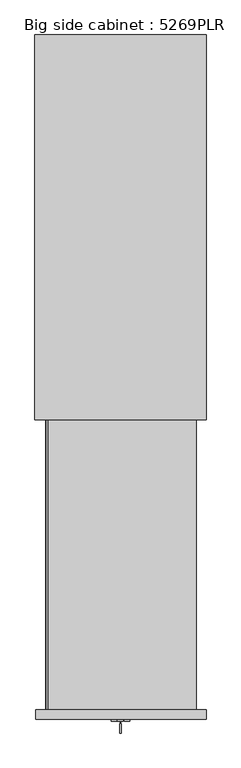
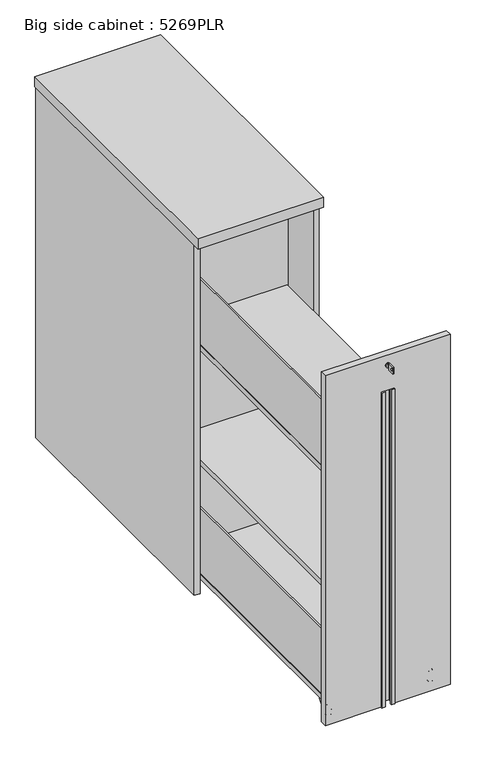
"""IFC4 building model written with IfcOpenShell, lengths in millimetres: furniture geometry, Big side cabinet : 5269PLR."""

from ifc_helpers import new_model, si_unit, point, frame, frame_2d, origin, origin_with_axes, place, context, project, spatial, polyline, circle_curve, ellipse_curve, trimmed, segment, composite_curve, outline, extrude, source, transform, mapped, element, save
from ifc_brep_helpers import plane_surface, cylinder_surface, revolved_surface, advanced_brep


def big_side_cabinet_5269plr_a5a5dc66(model_context):
    return source(origin(), model_context, "Body", "SolidModel", [
        extrude(outline(polyline([(1.5783188, 20.1617145), (1.5783188, 10.1617145), (-8.4216812, 10.1617145), (-8.4216812, 20.1617145), (1.5783188, 20.1617145)])), origin_with_axes(), (0.0, 0.0, 1.0), 10.0),
        extrude(outline(polyline([(180.5000002, 898.0), (198.5, 898.0), (198.5, 22.9999769), (180.5000002, 22.9999769), (180.5000002, 898.0)])), frame((0.0, 0.0, 5.0), z_axis=(0.0, 0.0, 1.0), x_axis=(1.0, 0.0, 0.0)), (0.0, 0.0, 1.0), 1180.0),
        extrude(outline(polyline([(-180.5000002, 878.4999997), (-180.5000002, 890.9999997), (180.5000002, 890.9999997), (180.5000002, 878.4999997), (-180.5000002, 878.4999997)])), frame((0.0, 0.0, 5.0), z_axis=(0.0, 0.0, 1.0), x_axis=(1.0, 0.0, 0.0)), (0.0, 0.0, 1.0), 1180.0),
        extrude(outline(polyline([(-180.5000002, 898.0), (-180.5000002, 22.9999769), (-198.5, 22.9999769), (-198.5, 898.0), (-180.5000002, 898.0)])), frame((0.0, 0.0, 5.0), z_axis=(0.0, 0.0, 1.0), x_axis=(1.0, 0.0, 0.0)), (0.0, 0.0, 1.0), 1180.0),
        extrude(outline(polyline([(180.5000002, 70.0000151), (-180.5000002, 70.0000151), (-180.5000002, 838.5000021), (180.5000002, 838.5000021), (180.5000002, 70.0000151)])), frame((0.0, 0.0, 20.0583505), z_axis=(0.0, 0.0, 1.0), x_axis=(1.0, 0.0, 0.0)), (0.0, 0.0, 1.0), 17.9999982),
        extrude(outline(polyline([(200.0, 0.0), (-200.0, 0.0), (-200.0, 900.0), (200.0, 900.0), (200.0, 0.0)])), frame((0.0, 0.0, 1185.0), z_axis=(0.0, 0.0, 1.0), x_axis=(1.0, 0.0, 0.0)), (0.0, 0.0, 1.0), 35.0),
        extrude(outline(composite_curve([segment(trimmed(circle_curve(frame_2d((-160.5000002, 806.0000021)), 20.0), [point((-180.5000002, 806.0000021))], [point((-140.5000002, 806.0000021))], False, "CARTESIAN"), True, "CONTINUOUS"), segment(trimmed(circle_curve(frame_2d((-160.5000002, 806.0000021)), 20.0), [point((-140.5000002, 806.0000021))], [point((-180.5000002, 806.0000021))], False, "CARTESIAN"), True, "CONTINUOUS")], self_intersect=False)), origin_with_axes(), (0.0, 0.0, 1.0), 19.0539492),
        extrude(outline(composite_curve([segment(trimmed(circle_curve(frame_2d((-160.5000002, 98.9999918)), 20.0), [point((-180.5000002, 98.9999918))], [point((-140.5000002, 98.9999918))], False, "CARTESIAN"), True, "CONTINUOUS"), segment(trimmed(circle_curve(frame_2d((-160.5000002, 98.9999918)), 20.0), [point((-140.5000002, 98.9999918))], [point((-180.5000002, 98.9999918))], False, "CARTESIAN"), True, "CONTINUOUS")], self_intersect=False)), origin_with_axes(), (0.0, 0.0, 1.0), 19.0539492),
        extrude(outline(composite_curve([segment(trimmed(circle_curve(frame_2d((160.5000002, 806.0000021)), 20.0), [point((140.5000002, 806.0000021))], [point((180.5000002, 806.0000021))], False, "CARTESIAN"), True, "CONTINUOUS"), segment(trimmed(circle_curve(frame_2d((160.5000002, 806.0000021)), 20.0), [point((180.5000002, 806.0000021))], [point((140.5000002, 806.0000021))], False, "CARTESIAN"), True, "CONTINUOUS")], self_intersect=False)), origin_with_axes(), (0.0, 0.0, 1.0), 19.0539492),
        extrude(outline(composite_curve([segment(trimmed(circle_curve(frame_2d((160.5000002, 98.9999918)), 20.0), [point((140.5000002, 98.9999918))], [point((180.5000002, 98.9999918))], False, "CARTESIAN"), True, "CONTINUOUS"), segment(trimmed(circle_curve(frame_2d((160.5000002, 98.9999918)), 20.0), [point((180.5000002, 98.9999918))], [point((140.5000002, 98.9999918))], False, "CARTESIAN"), True, "CONTINUOUS")], self_intersect=False)), origin_with_axes(), (0.0, 0.0, 1.0), 19.0539492),
        advanced_brep(
        [(155.997354, -648.0000393, 10.5), (158.25, -648.0000393, 12.752646), (158.25, -648.0000393, 29.247354), (155.997354, -648.0000393, 31.5), (155.997354, -648.0000393, 3.0456405), (155.997354, -648.0000393, 38.9543595), (159.0429945, -648.0000393, 0.0), (159.0429945, -648.0000393, 42.0), (162.5, -648.0000393, 0.0), (162.5, -648.0000393, 42.0), (162.5, -648.0000393, 16.75), (162.5, -648.0000393, 25.25), (158.25, -648.0000393, 16.75), (158.25, -648.0000393, 25.25)],
        [
            (0, 1),
            (1, 2, circle_curve(frame((158.25, -648.0000393, 21.0), z_axis=(1.0, 0.0, 0.0), x_axis=(0.0, 0.0, 1.0)), 8.247354)),
            (2, 3),
            (3, 0, circle_curve(frame((155.997354, -648.0000393, 21.0), z_axis=(-1.0, 0.0, 0.0), x_axis=(0.0, 0.0, 1.0)), 10.5)),
            (2, 1, circle_curve(frame((158.25, -648.0000393, 21.0), z_axis=(1.0, 0.0, 0.0), x_axis=(0.0, 0.0, 1.0)), 8.247354)),
            (0, 3, circle_curve(frame((155.997354, -648.0000393, 21.0), z_axis=(-1.0, 0.0, 0.0), x_axis=(0.0, 0.0, 1.0)), 10.5)),
            (4, 0),
            (3, 5),
            (5, 4, circle_curve(frame((155.997354, -648.0000393, 21.0), z_axis=(-1.0, 0.0, 0.0), x_axis=(0.0, 0.0, 1.0)), 17.9543595)),
            (4, 5, circle_curve(frame((155.997354, -648.0000393, 21.0), z_axis=(-1.0, 0.0, 0.0), x_axis=(0.0, 0.0, 1.0)), 17.9543595)),
            (6, 4, circle_curve(frame((159.0429945, -648.0000393, 3.0456405), z_axis=(0.0, 1.0, 0.0), x_axis=(-1.0, 0.0, 0.0)), 3.0456405)),
            (5, 7, circle_curve(frame((159.0429945, -648.0000393, 38.9543595), z_axis=(0.0, 1.0, 0.0), x_axis=(-1.0, 0.0, 0.0)), 3.0456405)),
            (7, 6, circle_curve(frame((159.0429945, -648.0000393, 21.0), z_axis=(-1.0, 0.0, 0.0), x_axis=(0.0, 0.0, 1.0)), 21.0)),
            (6, 7, circle_curve(frame((159.0429945, -648.0000393, 21.0), z_axis=(-1.0, 0.0, 0.0), x_axis=(0.0, 0.0, 1.0)), 21.0)),
            (8, 6),
            (7, 9),
            (9, 8, circle_curve(frame((162.5, -648.0000393, 21.0), z_axis=(-1.0, 0.0, 0.0), x_axis=(0.0, 0.0, 1.0)), 21.0)),
            (8, 9, circle_curve(frame((162.5, -648.0000393, 21.0), z_axis=(-1.0, 0.0, 0.0), x_axis=(0.0, 0.0, 1.0)), 21.0)),
            (10, 8),
            (9, 11),
            (11, 10, circle_curve(frame((162.5, -648.0000393, 21.0), z_axis=(-1.0, 0.0, 0.0), x_axis=(0.0, 0.0, 1.0)), 4.25)),
            (10, 11, circle_curve(frame((162.5, -648.0000393, 21.0), z_axis=(-1.0, 0.0, 0.0), x_axis=(0.0, 0.0, 1.0)), 4.25)),
            (12, 10),
            (11, 13),
            (13, 12, circle_curve(frame((158.25, -648.0000393, 21.0), z_axis=(-1.0, 0.0, 0.0), x_axis=(0.0, 0.0, 1.0)), 4.25)),
            (12, 13, circle_curve(frame((158.25, -648.0000393, 21.0), z_axis=(-1.0, 0.0, 0.0), x_axis=(0.0, 0.0, 1.0)), 4.25)),
            (1, 12),
            (13, 2),
        ],
        [
            revolved_surface(polyline([(158.25, -648.0000393, 29.247354), (155.997354, -648.0000393, 31.5)]), (135.5019942, -648.0000393, 21.0), (1.0, 0.0, 0.0)),
            plane_surface(frame((155.997354, -648.0000393, 21.0), z_axis=(-1.0, 0.0, 0.0), x_axis=(0.0, 0.0, 1.0))),
            revolved_surface(trimmed(ellipse_curve(frame((159.0429945, -648.0000393, 38.9543595), z_axis=(0.0, 1.0, 0.0), x_axis=(-1.0, 0.0, 0.0)), 3.0456405, 3.0456405), [point((155.997354, -648.0000393, 38.9543595))], [point((159.0429945, -648.0000393, 42.0))], True, "CARTESIAN"), (135.5019942, -648.0000393, 21.0), (1.0, 0.0, 0.0)),
            cylinder_surface(frame((135.5019942, -648.0000393, 21.0), z_axis=(1.0, 0.0, 0.0), x_axis=(0.0, 0.0, 1.0)), 21.0),
            plane_surface(frame((162.5, -648.0000393, 21.0), z_axis=(1.0, 0.0, 0.0), x_axis=(0.0, 0.0, 1.0))),
            revolved_surface(polyline([(162.5, -648.0000393, 25.25), (158.25, -648.0000393, 25.25)]), (135.5019942, -648.0000393, 21.0), (1.0, 0.0, 0.0)),
            plane_surface(frame((158.25, -648.0000393, 21.0), z_axis=(-1.0, 0.0, 0.0), x_axis=(0.0, 0.0, 1.0))),
        ],
        [
            (0, [[1, 2, 3, 4]]),
            (0, [[-3, 5, -1, 6]]),
            (1, [[7, -4, 8, 9]]),
            (1, [[-8, -6, -7, 10]]),
            (2, [[11, -9, 12, 13]]),
            (2, [[-12, -10, -11, 14]]),
            (3, [[15, -13, 16, 17]]),
            (3, [[-16, -14, -15, 18]]),
            (4, [[19, -17, 20, 21]]),
            (4, [[-20, -18, -19, 22]]),
            (5, [[23, -21, 24, 25]]),
            (5, [[-24, -22, -23, 26]]),
            (6, [[27, -25, 28, -2]]),
            (6, [[-28, -26, -27, -5]]),
        ],
    ),
        advanced_brep(
        [(174.351441, -648.0000393, 25.0), (174.351441, -648.0000393, 21.0), (174.351441, -648.0000393, 17.0), (169.8769483, -648.0000393, 17.0), (169.8769483, -648.0000393, 25.0)],
        [
            (0, 1),
            (1, 2),
            (2, 0, circle_curve(frame((174.351441, -648.0000393, 21.0), z_axis=(1.0, 0.0, 0.0), x_axis=(0.0, 0.0, -1.0)), 4.0)),
            (0, 2, circle_curve(frame((174.351441, -648.0000393, 21.0), z_axis=(1.0, 0.0, 0.0), x_axis=(0.0, 0.0, -1.0)), 4.0)),
            (2, 3),
            (3, 4, circle_curve(frame((169.8769483, -648.0000393, 21.0), z_axis=(1.0, 0.0, 0.0), x_axis=(0.0, 0.0, -1.0)), 4.0)),
            (4, 0),
            (4, 3, circle_curve(frame((169.8769483, -648.0000393, 21.0), z_axis=(1.0, 0.0, 0.0), x_axis=(0.0, 0.0, -1.0)), 4.0)),
        ],
        [
            plane_surface(frame((174.351441, -648.0000393, 21.0), z_axis=(1.0, 0.0, 0.0), x_axis=(0.0, 0.0, -1.0))),
            cylinder_surface(frame((142.5, -648.0000393, 21.0), z_axis=(-1.0, 0.0, 0.0), x_axis=(0.0, 0.0, -1.0)), 4.0),
            plane_surface(frame((169.8769483, -672.0000393, 46.0), z_axis=(-1.0, 0.0, 0.0), x_axis=(0.0, 1.0, 0.0))),
        ],
        [
            (0, [[1, 2, 3]]),
            (0, [[-1, 4, -2]]),
            (1, [[5, 6, 7, -3]]),
            (1, [[-7, 8, -5, -4]]),
            (2, [[-8, -6]]),
        ],
    ),
        advanced_brep(
        [(150.5708052, -648.0000393, 25.0), (155.0, -648.0000393, 25.0), (155.0, -648.0000393, 17.0), (150.5708052, -648.0000393, 17.0), (150.5708052, -648.0000393, 21.0)],
        [
            (0, 1),
            (1, 2, circle_curve(frame((155.0, -648.0000393, 21.0), z_axis=(-1.0, 0.0, 0.0), x_axis=(0.0, 0.0, -1.0)), 4.0)),
            (2, 3),
            (3, 0, circle_curve(frame((150.5708052, -648.0000393, 21.0), z_axis=(1.0, 0.0, 0.0), x_axis=(0.0, 0.0, -1.0)), 4.0)),
            (2, 1, circle_curve(frame((155.0, -648.0000393, 21.0), z_axis=(-1.0, 0.0, 0.0), x_axis=(0.0, 0.0, -1.0)), 4.0)),
            (0, 3, circle_curve(frame((150.5708052, -648.0000393, 21.0), z_axis=(1.0, 0.0, 0.0), x_axis=(0.0, 0.0, -1.0)), 4.0)),
            (3, 4),
            (4, 0),
        ],
        [
            cylinder_surface(frame((142.5, -648.0000393, 21.0), z_axis=(-1.0, 0.0, 0.0), x_axis=(0.0, 0.0, -1.0)), 4.0),
            plane_surface(frame((150.5708052, -648.0000393, 21.0), z_axis=(-1.0, 0.0, 0.0), x_axis=(0.0, 0.0, -1.0))),
            plane_surface(frame((155.0, -672.0000393, 0.0), z_axis=(1.0, 0.0, 0.0), x_axis=(0.0, 1.0, 0.0))),
        ],
        [
            (0, [[1, 2, 3, 4]]),
            (0, [[-3, 5, -1, 6]]),
            (1, [[7, 8, -4]]),
            (1, [[-8, -7, -6]]),
            (2, [[-5, -2]]),
        ],
    ),
        advanced_brep(
        [(166.75, -648.0000393, 12.752646), (169.002646, -648.0000393, 10.5), (169.002646, -648.0000393, 31.5), (166.75, -648.0000393, 29.247354), (169.002646, -648.0000393, 3.0456405), (169.002646, -648.0000393, 38.9543595), (165.9570055, -648.0000393, 0.0), (165.9570055, -648.0000393, 42.0), (162.5, -648.0000393, 0.0), (162.5, -648.0000393, 42.0), (162.5, -648.0000393, 21.0), (166.75, -648.0000393, 21.0)],
        [
            (0, 1),
            (1, 2, circle_curve(frame((169.002646, -648.0000393, 21.0), z_axis=(1.0, 0.0, 0.0), x_axis=(0.0, 0.0, 1.0)), 10.5)),
            (2, 3),
            (3, 0, circle_curve(frame((166.75, -648.0000393, 21.0), z_axis=(-1.0, 0.0, 0.0), x_axis=(0.0, 0.0, 1.0)), 8.247354)),
            (2, 1, circle_curve(frame((169.002646, -648.0000393, 21.0), z_axis=(1.0, 0.0, 0.0), x_axis=(0.0, 0.0, 1.0)), 10.5)),
            (0, 3, circle_curve(frame((166.75, -648.0000393, 21.0), z_axis=(-1.0, 0.0, 0.0), x_axis=(0.0, 0.0, 1.0)), 8.247354)),
            (1, 4),
            (4, 5, circle_curve(frame((169.002646, -648.0000393, 21.0), z_axis=(1.0, 0.0, 0.0), x_axis=(0.0, 0.0, 1.0)), 17.9543595)),
            (5, 2),
            (5, 4, circle_curve(frame((169.002646, -648.0000393, 21.0), z_axis=(1.0, 0.0, 0.0), x_axis=(0.0, 0.0, 1.0)), 17.9543595)),
            (4, 6, circle_curve(frame((165.9570055, -648.0000393, 3.0456405), z_axis=(0.0, 1.0, 0.0), x_axis=(1.0, 0.0, 0.0)), 3.0456405)),
            (6, 7, circle_curve(frame((165.9570055, -648.0000393, 21.0), z_axis=(1.0, 0.0, 0.0), x_axis=(0.0, 0.0, 1.0)), 21.0)),
            (7, 5, circle_curve(frame((165.9570055, -648.0000393, 38.9543595), z_axis=(0.0, 1.0, 0.0), x_axis=(1.0, 0.0, 0.0)), 3.0456405)),
            (7, 6, circle_curve(frame((165.9570055, -648.0000393, 21.0), z_axis=(1.0, 0.0, 0.0), x_axis=(0.0, 0.0, 1.0)), 21.0)),
            (6, 8),
            (8, 9, circle_curve(frame((162.5, -648.0000393, 21.0), z_axis=(1.0, 0.0, 0.0), x_axis=(0.0, 0.0, 1.0)), 21.0)),
            (9, 7),
            (9, 8, circle_curve(frame((162.5, -648.0000393, 21.0), z_axis=(1.0, 0.0, 0.0), x_axis=(0.0, 0.0, 1.0)), 21.0)),
            (8, 10),
            (10, 9),
            (11, 0),
            (3, 11),
        ],
        [
            revolved_surface(polyline([(169.002646, -648.0000393, 31.5), (166.75, -648.0000393, 29.247354)]), (189.4980058, -648.0000393, 21.0), (1.0, 0.0, 0.0)),
            plane_surface(frame((169.002646, -648.0000393, 21.0), z_axis=(1.0, 0.0, 0.0), x_axis=(0.0, 0.0, 1.0))),
            revolved_surface(trimmed(ellipse_curve(frame((165.9570055, -648.0000393, 38.9543595), z_axis=(0.0, 1.0, 0.0), x_axis=(1.0, 0.0, 0.0)), 3.0456405, 3.0456405), [point((165.9570055, -648.0000393, 42.0))], [point((169.002646, -648.0000393, 38.9543595))], True, "CARTESIAN"), (189.4980058, -648.0000393, 21.0), (1.0, 0.0, 0.0)),
            cylinder_surface(frame((189.4980058, -648.0000393, 21.0), z_axis=(1.0, 0.0, 0.0), x_axis=(0.0, 0.0, 1.0)), 21.0),
            plane_surface(frame((162.5, -648.0000393, 21.0), z_axis=(-1.0, 0.0, 0.0), x_axis=(0.0, 0.0, 1.0))),
            plane_surface(frame((166.75, -648.0000393, 21.0), z_axis=(1.0, 0.0, 0.0), x_axis=(0.0, 0.0, 1.0))),
        ],
        [
            (0, [[1, 2, 3, 4]]),
            (0, [[-3, 5, -1, 6]]),
            (1, [[7, 8, 9, -2]]),
            (1, [[-9, 10, -7, -5]]),
            (2, [[11, 12, 13, -8]]),
            (2, [[-13, 14, -11, -10]]),
            (3, [[15, 16, 17, -12]]),
            (3, [[-17, 18, -15, -14]]),
            (4, [[19, 20, -16]]),
            (4, [[-20, -19, -18]]),
            (5, [[21, -4, 22]]),
            (5, [[-22, -6, -21]]),
        ],
    ),
        advanced_brep(
        [(152.5, -624.0000393, 48.0), (152.5, -624.0000393, 42.0), (152.5, -640.0000393, 21.0), (152.5, -656.0000393, 21.0), (152.5, -672.0000393, 42.0), (152.5, -672.0000393, 48.0), (172.5, -624.0000393, 48.0), (172.5, -672.0000393, 48.0), (172.5, -672.0000393, 42.0), (172.5, -656.0000393, 21.0), (172.5, -640.0000393, 21.0), (172.5, -624.0000393, 42.0), (169.8769483, -656.0000393, 21.0), (169.8769483, -640.0000393, 21.0), (155.0, -640.0000393, 21.0), (155.0, -656.0000393, 21.0), (155.0, -672.0000393, 42.0), (155.0, -672.0000393, 46.0), (169.8769483, -672.0000393, 46.0), (169.8769483, -672.0000393, 42.0), (169.8769483, -624.0000393, 42.0), (169.8769483, -624.0000393, 46.0), (155.0, -624.0000393, 46.0), (155.0, -624.0000393, 42.0)],
        [
            (0, 1),
            (1, 2),
            (2, 3, circle_curve(frame((152.5, -648.0000393, 21.0), z_axis=(-1.0, 0.0, 0.0), x_axis=(0.0, -1.0, 0.0)), 8.0)),
            (3, 4),
            (4, 5),
            (5, 0),
            (6, 7),
            (7, 8),
            (8, 9),
            (9, 10, circle_curve(frame((172.5, -648.0000393, 21.0), z_axis=(1.0, 0.0, 0.0), x_axis=(0.0, -1.0, 0.0)), 8.0)),
            (10, 11),
            (11, 6),
            (5, 7),
            (6, 0),
            (9, 12),
            (12, 13, circle_curve(frame((169.8769483, -648.0000393, 21.0), z_axis=(1.0, 0.0, 0.0), x_axis=(0.0, -1.0, 0.0)), 8.0)),
            (13, 10),
            (2, 14),
            (14, 15, circle_curve(frame((155.0, -648.0000393, 21.0), z_axis=(-1.0, 0.0, 0.0), x_axis=(0.0, -1.0, 0.0)), 8.0)),
            (15, 3),
            (4, 16),
            (16, 17),
            (17, 18),
            (18, 19),
            (19, 8),
            (11, 20),
            (20, 21),
            (21, 22),
            (22, 23),
            (23, 1),
            (17, 22),
            (21, 18),
            (16, 15),
            (14, 23),
            (20, 13),
            (12, 19),
        ],
        [
            plane_surface(frame((152.5, -672.0000393, 48.0), z_axis=(-1.0, 0.0, 0.0), x_axis=(0.0, -1.0, 0.0))),
            plane_surface(frame((172.5, -672.0000393, 48.0), z_axis=(1.0, 0.0, 0.0), x_axis=(0.0, 1.0, 0.0))),
            plane_surface(frame((152.5, -624.0000393, 48.0), z_axis=(0.0, 0.0, 1.0), x_axis=(1.0, 0.0, 0.0))),
            cylinder_surface(frame((172.5, -648.0000393, 21.0), z_axis=(-1.0, 0.0, 0.0), x_axis=(0.0, -1.0, 0.0)), 8.0),
            plane_surface(frame((152.5, -672.0000393, 48.0), z_axis=(0.0, -1.0, 0.0), x_axis=(1.0, 0.0, 0.0))),
            plane_surface(frame((152.5, -624.0000393, 42.0), z_axis=(0.0, 1.0, 0.0), x_axis=(1.0, 0.0, 0.0))),
            plane_surface(frame((155.0, -672.0000393, 46.0), z_axis=(0.0, 0.0, -1.0), x_axis=(0.0, 1.0, 0.0))),
            plane_surface(frame((155.0, -672.0000393, 0.0), z_axis=(1.0, 0.0, 0.0), x_axis=(0.0, 1.0, 0.0))),
            plane_surface(frame((169.8769483, -672.0000393, 46.0), z_axis=(-1.0, 0.0, 0.0), x_axis=(0.0, 1.0, 0.0))),
            plane_surface(frame((152.5, -672.0000393, 42.0), z_axis=(0.0, -0.7954317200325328, -0.6060432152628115), x_axis=(1.0, 0.0, 0.0))),
            plane_surface(frame((152.5, -640.0000393, 21.0), z_axis=(0.0, 0.7954317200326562, -0.6060432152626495), x_axis=(1.0, 0.0, 0.0))),
        ],
        [
            (0, [[1, 2, 3, 4, 5, 6]]),
            (1, [[7, 8, 9, 10, 11, 12]]),
            (2, [[13, -7, 14, -6]]),
            (3, [[15, 16, 17, -10]]),
            (3, [[18, 19, 20, -3]]),
            (4, [[21, 22, 23, 24, 25, -8, -13, -5]]),
            (5, [[-14, -12, 26, 27, 28, 29, 30, -1]]),
            (6, [[-23, 31, -28, 32]]),
            (7, [[-22, 33, -19, 34, -29, -31]]),
            (8, [[-27, 35, -16, 36, -24, -32]]),
            (9, [[-20, -33, -21, -4]]),
            (9, [[-25, -36, -15, -9]]),
            (10, [[-30, -34, -18, -2]]),
            (10, [[-17, -35, -26, -11]]),
        ],
    ),
        extrude(outline(polyline([(-732.0000046, 1139.014113), (-732.0000046, 1161.0), (-710.0000046, 1161.0), (-710.0000046, 1139.014113), (-732.0000046, 1139.014113)]), holes=[composite_curve([segment(trimmed(circle_curve(frame_2d((-725.7500046, 1150.0070565)), 3.2230706), [point((-725.7500046, 1153.2301271))], [point((-725.7500046, 1146.7839859))], True, "CARTESIAN"), True, "CONTINUOUS"), segment(trimmed(circle_curve(frame_2d((-725.7500046, 1150.0070565)), 3.2230706), [point((-725.7500046, 1146.7839859))], [point((-725.7500046, 1153.2301271))], True, "CARTESIAN"), True, "CONTINUOUS")], self_intersect=False)]), frame((-2.0, 0.0, 0.0), z_axis=(1.0, 0.0, 0.0), x_axis=(0.0, 1.0, 0.0)), (0.0, 0.0, 1.0), 4.0416064),
        extrude(outline(polyline([(1.0416064, -710.0000046), (-1.0, -710.0000046), (-1.0, -704.0000046), (1.0416064, -704.0000046), (1.0416064, -710.0000046)])), frame((0.0, 0.0, 1146.014113), z_axis=(0.0, 0.0, 1.0), x_axis=(1.0, 0.0, 0.0)), (0.0, 0.0, 1.0), 7.985887),
        extrude(outline(composite_curve([segment(trimmed(circle_curve(frame_2d((1150.0, 0.0)), 7.0), [point((1150.0, -7.0))], [point((1150.0, 7.0))], False, "CARTESIAN"), True, "CONTINUOUS"), segment(trimmed(circle_curve(frame_2d((1150.0, 0.0)), 7.0), [point((1150.0, 7.0))], [point((1150.0, -7.0))], False, "CARTESIAN"), True, "CONTINUOUS")], self_intersect=False)), frame((0.0, -704.0000046, 0.0), z_axis=(0.0, 1.0, 0.0), x_axis=(0.0, 0.0, 1.0)), (0.0, 0.0, 1.0), 4.0),
        extrude(outline(polyline([(1182.0, 200.0000015), (1182.0, -198.5000015), (5.0, -198.5000015), (5.0, -17.7500067), (1065.0, -17.7500067), (1065.0, 17.7500067), (5.0, 17.7500067), (5.0, 200.0000015), (1182.0, 200.0000015)])), frame((0.0, -700.0000046, 0.0), z_axis=(0.0, 1.0, 0.0), x_axis=(0.0, 0.0, 1.0)), (0.0, 0.0, 1.0), 21.9999653),
        extrude(outline(polyline([(-21.2499929, -704.2058707), (-21.2499929, -700.0000046), (-17.7500067, -700.0000046), (-17.7500067, -678.0000393), (17.7500067, -678.0000393), (17.7500067, -700.0000046), (21.2499929, -700.0000046), (21.2499929, -704.2058707), (9.2499986, -704.2058707), (9.2499986, -698.4780496), (15.9519183, -695.3528931), (15.9519183, -680.3528931), (-15.9519183, -680.3528931), (-15.9519183, -695.3528931), (-9.2499986, -698.4780496), (-9.2499986, -704.2058707), (-21.2499929, -704.2058707)])), frame((0.0, 0.0, 5.0), z_axis=(0.0, 0.0, 1.0), x_axis=(1.0, 0.0, 0.0)), (0.0, 0.0, 1.0), 1060.0),
        extrude(outline(polyline([(-169.8004833, -678.0000046), (-173.7499883, -678.0000046), (-173.7499883, 160.5000143), (-169.8004833, 160.5000143), (-169.8004833, -678.0000046)])), frame((0.0, 0.0, 836.0), z_axis=(0.0, 0.0, 1.0), x_axis=(1.0, 0.0, 0.0)), (0.0, 0.0, 1.0), 220.0),
        extrude(outline(polyline([(169.8004833, -678.0000046), (169.8004833, 160.5000143), (173.7499883, 160.5000143), (173.7499883, -678.0000046), (169.8004833, -678.0000046)])), frame((0.0, 0.0, 451.0), z_axis=(0.0, 0.0, 1.0), x_axis=(1.0, 0.0, 0.0)), (0.0, 0.0, 1.0), 220.0),
        extrude(outline(polyline([(-169.8004833, -678.0000046), (-173.7499883, -678.0000046), (-173.7499883, 160.5000143), (-169.8004833, 160.5000143), (-169.8004833, -678.0000046)])), frame((0.0, 0.0, 66.0), z_axis=(0.0, 0.0, 1.0), x_axis=(1.0, 0.0, 0.0)), (0.0, 0.0, 1.0), 220.0),
        advanced_brep(
        [(-155.997354, -648.0000393, 10.5), (-155.997354, -648.0000393, 31.5), (-158.25, -648.0000393, 29.247354), (-158.25, -648.0000393, 12.752646), (-155.997354, -648.0000393, 3.0456405), (-155.997354, -648.0000393, 38.9543595), (-159.0429945, -648.0000393, 0.0), (-159.0429945, -648.0000393, 42.0), (-162.5, -648.0000393, 0.0), (-162.5, -648.0000393, 42.0), (-162.5, -648.0000393, 16.75), (-162.5, -648.0000393, 25.25), (-158.25, -648.0000393, 16.75), (-158.25, -648.0000393, 25.25)],
        [
            (0, 1, circle_curve(frame((-155.997354, -648.0000393, 21.0), z_axis=(1.0, 0.0, 0.0), x_axis=(0.0, 0.0, 1.0)), 10.5)),
            (1, 2),
            (2, 3, circle_curve(frame((-158.25, -648.0000393, 21.0), z_axis=(-1.0, 0.0, 0.0), x_axis=(0.0, 0.0, 1.0)), 8.247354)),
            (3, 0),
            (1, 0, circle_curve(frame((-155.997354, -648.0000393, 21.0), z_axis=(1.0, 0.0, 0.0), x_axis=(0.0, 0.0, 1.0)), 10.5)),
            (3, 2, circle_curve(frame((-158.25, -648.0000393, 21.0), z_axis=(-1.0, 0.0, 0.0), x_axis=(0.0, 0.0, 1.0)), 8.247354)),
            (4, 5, circle_curve(frame((-155.997354, -648.0000393, 21.0), z_axis=(1.0, 0.0, 0.0), x_axis=(0.0, 0.0, 1.0)), 17.9543595)),
            (5, 1),
            (0, 4),
            (5, 4, circle_curve(frame((-155.997354, -648.0000393, 21.0), z_axis=(1.0, 0.0, 0.0), x_axis=(0.0, 0.0, 1.0)), 17.9543595)),
            (6, 7, circle_curve(frame((-159.0429945, -648.0000393, 21.0), z_axis=(1.0, 0.0, 0.0), x_axis=(0.0, 0.0, 1.0)), 21.0)),
            (7, 5, circle_curve(frame((-159.0429945, -648.0000393, 38.9543595), z_axis=(0.0, 1.0, 0.0), x_axis=(1.0, 0.0, 0.0)), 3.0456405)),
            (4, 6, circle_curve(frame((-159.0429945, -648.0000393, 3.0456405), z_axis=(0.0, 1.0, 0.0), x_axis=(1.0, 0.0, 0.0)), 3.0456405)),
            (7, 6, circle_curve(frame((-159.0429945, -648.0000393, 21.0), z_axis=(1.0, 0.0, 0.0), x_axis=(0.0, 0.0, 1.0)), 21.0)),
            (8, 9, circle_curve(frame((-162.5, -648.0000393, 21.0), z_axis=(1.0, 0.0, 0.0), x_axis=(0.0, 0.0, 1.0)), 21.0)),
            (9, 7),
            (6, 8),
            (9, 8, circle_curve(frame((-162.5, -648.0000393, 21.0), z_axis=(1.0, 0.0, 0.0), x_axis=(0.0, 0.0, 1.0)), 21.0)),
            (10, 11, circle_curve(frame((-162.5, -648.0000393, 21.0), z_axis=(1.0, 0.0, 0.0), x_axis=(0.0, 0.0, 1.0)), 4.25)),
            (11, 9),
            (8, 10),
            (11, 10, circle_curve(frame((-162.5, -648.0000393, 21.0), z_axis=(1.0, 0.0, 0.0), x_axis=(0.0, 0.0, 1.0)), 4.25)),
            (12, 13, circle_curve(frame((-158.25, -648.0000393, 21.0), z_axis=(1.0, 0.0, 0.0), x_axis=(0.0, 0.0, 1.0)), 4.25)),
            (13, 11),
            (10, 12),
            (13, 12, circle_curve(frame((-158.25, -648.0000393, 21.0), z_axis=(1.0, 0.0, 0.0), x_axis=(0.0, 0.0, 1.0)), 4.25)),
            (2, 13),
            (12, 3),
        ],
        [
            revolved_surface(polyline([(-158.25, -648.0000393, 29.247354), (-155.997354, -648.0000393, 31.5)]), (-135.5019942, -648.0000393, 21.0), (-1.0, 0.0, 0.0)),
            plane_surface(frame((-155.997354, -648.0000393, 21.0), z_axis=(1.0, 0.0, 0.0), x_axis=(0.0, 0.0, 1.0))),
            revolved_surface(trimmed(ellipse_curve(frame((-159.0429945, -648.0000393, 38.9543595), z_axis=(0.0, -1.0, 0.0), x_axis=(1.0, 0.0, 0.0)), 3.0456405, 3.0456405), [point((-155.997354, -648.0000393, 38.9543595))], [point((-159.0429945, -648.0000393, 42.0))], True, "CARTESIAN"), (-135.5019942, -648.0000393, 21.0), (-1.0, 0.0, 0.0)),
            cylinder_surface(frame((-135.5019942, -648.0000393, 21.0), z_axis=(-1.0, 0.0, 0.0), x_axis=(0.0, 0.0, 1.0)), 21.0),
            plane_surface(frame((-162.5, -648.0000393, 21.0), z_axis=(-1.0, 0.0, 0.0), x_axis=(0.0, 0.0, 1.0))),
            revolved_surface(polyline([(-162.5, -648.0000393, 25.25), (-158.25, -648.0000393, 25.25)]), (-135.5019942, -648.0000393, 21.0), (-1.0, 0.0, 0.0)),
            plane_surface(frame((-158.25, -648.0000393, 21.0), z_axis=(1.0, 0.0, 0.0), x_axis=(0.0, 0.0, 1.0))),
        ],
        [
            (0, [[1, 2, 3, 4]]),
            (0, [[5, -4, 6, -2]]),
            (1, [[7, 8, -1, 9]]),
            (1, [[10, -9, -5, -8]]),
            (2, [[11, 12, -7, 13]]),
            (2, [[14, -13, -10, -12]]),
            (3, [[15, 16, -11, 17]]),
            (3, [[18, -17, -14, -16]]),
            (4, [[19, 20, -15, 21]]),
            (4, [[22, -21, -18, -20]]),
            (5, [[23, 24, -19, 25]]),
            (5, [[26, -25, -22, -24]]),
            (6, [[-3, 27, -23, 28]]),
            (6, [[-6, -28, -26, -27]]),
        ],
    ),
        advanced_brep(
        [(-174.351441, -648.0000393, 25.0), (-174.351441, -648.0000393, 17.0), (-174.351441, -648.0000393, 21.0), (-169.8769483, -648.0000393, 25.0), (-169.8769483, -648.0000393, 17.0)],
        [
            (0, 1, circle_curve(frame((-174.351441, -648.0000393, 21.0), z_axis=(-1.0, 0.0, 0.0), x_axis=(0.0, 0.0, -1.0)), 4.0)),
            (1, 2),
            (2, 0),
            (1, 0, circle_curve(frame((-174.351441, -648.0000393, 21.0), z_axis=(-1.0, 0.0, 0.0), x_axis=(0.0, 0.0, -1.0)), 4.0)),
            (0, 3),
            (3, 4, circle_curve(frame((-169.8769483, -648.0000393, 21.0), z_axis=(-1.0, 0.0, 0.0), x_axis=(0.0, 0.0, -1.0)), 4.0)),
            (4, 1),
            (4, 3, circle_curve(frame((-169.8769483, -648.0000393, 21.0), z_axis=(-1.0, 0.0, 0.0), x_axis=(0.0, 0.0, -1.0)), 4.0)),
        ],
        [
            plane_surface(frame((-174.351441, -648.0000393, 21.0), z_axis=(-1.0, 0.0, 0.0), x_axis=(0.0, 0.0, -1.0))),
            cylinder_surface(frame((-142.5, -648.0000393, 21.0), z_axis=(1.0, 0.0, 0.0), x_axis=(0.0, 0.0, -1.0)), 4.0),
            plane_surface(frame((-169.8769483, -672.0000393, 46.0), z_axis=(1.0, 0.0, 0.0), x_axis=(0.0, 1.0, 0.0))),
        ],
        [
            (0, [[1, 2, 3]]),
            (0, [[-2, 4, -3]]),
            (1, [[-1, 5, 6, 7]]),
            (1, [[-4, -7, 8, -5]]),
            (2, [[-6, -8]]),
        ],
    ),
        advanced_brep(
        [(-150.5708052, -648.0000393, 25.0), (-150.5708052, -648.0000393, 17.0), (-155.0, -648.0000393, 17.0), (-155.0, -648.0000393, 25.0), (-150.5708052, -648.0000393, 21.0)],
        [
            (0, 1, circle_curve(frame((-150.5708052, -648.0000393, 21.0), z_axis=(-1.0, 0.0, 0.0), x_axis=(0.0, 0.0, -1.0)), 4.0)),
            (1, 2),
            (2, 3, circle_curve(frame((-155.0, -648.0000393, 21.0), z_axis=(1.0, 0.0, 0.0), x_axis=(0.0, 0.0, -1.0)), 4.0)),
            (3, 0),
            (1, 0, circle_curve(frame((-150.5708052, -648.0000393, 21.0), z_axis=(-1.0, 0.0, 0.0), x_axis=(0.0, 0.0, -1.0)), 4.0)),
            (3, 2, circle_curve(frame((-155.0, -648.0000393, 21.0), z_axis=(1.0, 0.0, 0.0), x_axis=(0.0, 0.0, -1.0)), 4.0)),
            (0, 4),
            (4, 1),
        ],
        [
            cylinder_surface(frame((-142.5, -648.0000393, 21.0), z_axis=(1.0, 0.0, 0.0), x_axis=(0.0, 0.0, -1.0)), 4.0),
            plane_surface(frame((-150.5708052, -648.0000393, 21.0), z_axis=(1.0, 0.0, 0.0), x_axis=(0.0, 0.0, -1.0))),
            plane_surface(frame((-155.0, -672.0000393, 0.0), z_axis=(-1.0, 0.0, 0.0), x_axis=(0.0, 1.0, 0.0))),
        ],
        [
            (0, [[1, 2, 3, 4]]),
            (0, [[5, -4, 6, -2]]),
            (1, [[-1, 7, 8]]),
            (1, [[-5, -8, -7]]),
            (2, [[-3, -6]]),
        ],
    ),
        advanced_brep(
        [(-166.75, -648.0000393, 12.752646), (-166.75, -648.0000393, 29.247354), (-169.002646, -648.0000393, 31.5), (-169.002646, -648.0000393, 10.5), (-169.002646, -648.0000393, 38.9543595), (-169.002646, -648.0000393, 3.0456405), (-165.9570055, -648.0000393, 42.0), (-165.9570055, -648.0000393, 0.0), (-162.5, -648.0000393, 42.0), (-162.5, -648.0000393, 0.0), (-162.5, -648.0000393, 21.0), (-166.75, -648.0000393, 21.0)],
        [
            (0, 1, circle_curve(frame((-166.75, -648.0000393, 21.0), z_axis=(1.0, 0.0, 0.0), x_axis=(0.0, 0.0, 1.0)), 8.247354)),
            (1, 2),
            (2, 3, circle_curve(frame((-169.002646, -648.0000393, 21.0), z_axis=(-1.0, 0.0, 0.0), x_axis=(0.0, 0.0, 1.0)), 10.5)),
            (3, 0),
            (1, 0, circle_curve(frame((-166.75, -648.0000393, 21.0), z_axis=(1.0, 0.0, 0.0), x_axis=(0.0, 0.0, 1.0)), 8.247354)),
            (3, 2, circle_curve(frame((-169.002646, -648.0000393, 21.0), z_axis=(-1.0, 0.0, 0.0), x_axis=(0.0, 0.0, 1.0)), 10.5)),
            (2, 4),
            (4, 5, circle_curve(frame((-169.002646, -648.0000393, 21.0), z_axis=(-1.0, 0.0, 0.0), x_axis=(0.0, 0.0, 1.0)), 17.9543595)),
            (5, 3),
            (5, 4, circle_curve(frame((-169.002646, -648.0000393, 21.0), z_axis=(-1.0, 0.0, 0.0), x_axis=(0.0, 0.0, 1.0)), 17.9543595)),
            (4, 6, circle_curve(frame((-165.9570055, -648.0000393, 38.9543595), z_axis=(0.0, 1.0, 0.0), x_axis=(-1.0, 0.0, 0.0)), 3.0456405)),
            (6, 7, circle_curve(frame((-165.9570055, -648.0000393, 21.0), z_axis=(-1.0, 0.0, 0.0), x_axis=(0.0, 0.0, 1.0)), 21.0)),
            (7, 5, circle_curve(frame((-165.9570055, -648.0000393, 3.0456405), z_axis=(0.0, 1.0, 0.0), x_axis=(-1.0, 0.0, 0.0)), 3.0456405)),
            (7, 6, circle_curve(frame((-165.9570055, -648.0000393, 21.0), z_axis=(-1.0, 0.0, 0.0), x_axis=(0.0, 0.0, 1.0)), 21.0)),
            (6, 8),
            (8, 9, circle_curve(frame((-162.5, -648.0000393, 21.0), z_axis=(-1.0, 0.0, 0.0), x_axis=(0.0, 0.0, 1.0)), 21.0)),
            (9, 7),
            (9, 8, circle_curve(frame((-162.5, -648.0000393, 21.0), z_axis=(-1.0, 0.0, 0.0), x_axis=(0.0, 0.0, 1.0)), 21.0)),
            (8, 10),
            (10, 9),
            (11, 1),
            (0, 11),
        ],
        [
            revolved_surface(polyline([(-169.002646, -648.0000393, 31.5), (-166.75, -648.0000393, 29.247354)]), (-189.4980058, -648.0000393, 21.0), (-1.0, 0.0, 0.0)),
            plane_surface(frame((-169.002646, -648.0000393, 21.0), z_axis=(-1.0, 0.0, 0.0), x_axis=(0.0, 0.0, 1.0))),
            revolved_surface(trimmed(ellipse_curve(frame((-165.9570055, -648.0000393, 38.9543595), z_axis=(0.0, -1.0, 0.0), x_axis=(-1.0, 0.0, 0.0)), 3.0456405, 3.0456405), [point((-165.9570055, -648.0000393, 42.0))], [point((-169.002646, -648.0000393, 38.9543595))], True, "CARTESIAN"), (-189.4980058, -648.0000393, 21.0), (-1.0, 0.0, 0.0)),
            cylinder_surface(frame((-189.4980058, -648.0000393, 21.0), z_axis=(-1.0, 0.0, 0.0), x_axis=(0.0, 0.0, 1.0)), 21.0),
            plane_surface(frame((-162.5, -648.0000393, 21.0), z_axis=(1.0, 0.0, 0.0), x_axis=(0.0, 0.0, 1.0))),
            plane_surface(frame((-166.75, -648.0000393, 21.0), z_axis=(-1.0, 0.0, 0.0), x_axis=(0.0, 0.0, 1.0))),
        ],
        [
            (0, [[1, 2, 3, 4]]),
            (0, [[5, -4, 6, -2]]),
            (1, [[-3, 7, 8, 9]]),
            (1, [[-6, -9, 10, -7]]),
            (2, [[-8, 11, 12, 13]]),
            (2, [[-10, -13, 14, -11]]),
            (3, [[-12, 15, 16, 17]]),
            (3, [[-14, -17, 18, -15]]),
            (4, [[-16, 19, 20]]),
            (4, [[-18, -20, -19]]),
            (5, [[21, -1, 22]]),
            (5, [[-22, -5, -21]]),
        ],
    ),
        advanced_brep(
        [(-152.5, -624.0000393, 48.0), (-152.5, -672.0000393, 48.0), (-152.5, -672.0000393, 42.0), (-152.5, -656.0000393, 21.0), (-152.5, -640.0000393, 21.0), (-152.5, -624.0000393, 42.0), (-172.5, -624.0000393, 48.0), (-172.5, -624.0000393, 42.0), (-172.5, -640.0000393, 21.0), (-172.5, -656.0000393, 21.0), (-172.5, -672.0000393, 42.0), (-172.5, -672.0000393, 48.0), (-155.0, -656.0000393, 21.0), (-155.0, -640.0000393, 21.0), (-169.8769483, -640.0000393, 21.0), (-169.8769483, -656.0000393, 21.0), (-169.8769483, -672.0000393, 42.0), (-169.8769483, -672.0000393, 46.0), (-155.0, -672.0000393, 46.0), (-155.0, -672.0000393, 42.0), (-155.0, -624.0000393, 42.0), (-155.0, -624.0000393, 46.0), (-169.8769483, -624.0000393, 46.0), (-169.8769483, -624.0000393, 42.0)],
        [
            (0, 1),
            (1, 2),
            (2, 3),
            (3, 4, circle_curve(frame((-152.5, -648.0000393, 21.0), z_axis=(1.0, 0.0, 0.0), x_axis=(0.0, -1.0, 0.0)), 8.0)),
            (4, 5),
            (5, 0),
            (6, 7),
            (7, 8),
            (8, 9, circle_curve(frame((-172.5, -648.0000393, 21.0), z_axis=(-1.0, 0.0, 0.0), x_axis=(0.0, -1.0, 0.0)), 8.0)),
            (9, 10),
            (10, 11),
            (11, 6),
            (0, 6),
            (11, 1),
            (3, 12),
            (12, 13, circle_curve(frame((-155.0, -648.0000393, 21.0), z_axis=(1.0, 0.0, 0.0), x_axis=(0.0, -1.0, 0.0)), 8.0)),
            (13, 4),
            (8, 14),
            (14, 15, circle_curve(frame((-169.8769483, -648.0000393, 21.0), z_axis=(-1.0, 0.0, 0.0), x_axis=(0.0, -1.0, 0.0)), 8.0)),
            (15, 9),
            (10, 16),
            (16, 17),
            (17, 18),
            (18, 19),
            (19, 2),
            (5, 20),
            (20, 21),
            (21, 22),
            (22, 23),
            (23, 7),
            (17, 22),
            (21, 18),
            (20, 13),
            (12, 19),
            (16, 15),
            (14, 23),
        ],
        [
            plane_surface(frame((-152.5, -672.0000393, 48.0), z_axis=(1.0, 0.0, 0.0), x_axis=(0.0, -1.0, 0.0))),
            plane_surface(frame((-172.5, -672.0000393, 48.0), z_axis=(-1.0, 0.0, 0.0), x_axis=(0.0, 1.0, 0.0))),
            plane_surface(frame((-152.5, -624.0000393, 48.0), z_axis=(0.0, 0.0, 1.0), x_axis=(-1.0, 0.0, 0.0))),
            cylinder_surface(frame((-172.5, -648.0000393, 21.0), z_axis=(1.0, 0.0, 0.0), x_axis=(0.0, -1.0, 0.0)), 8.0),
            plane_surface(frame((-152.5, -672.0000393, 48.0), z_axis=(0.0, -1.0, 0.0), x_axis=(-1.0, 0.0, 0.0))),
            plane_surface(frame((-152.5, -624.0000393, 42.0), z_axis=(0.0, 1.0, 0.0), x_axis=(-1.0, 0.0, 0.0))),
            plane_surface(frame((-155.0, -672.0000393, 46.0), z_axis=(0.0, 0.0, -1.0), x_axis=(0.0, 1.0, 0.0))),
            plane_surface(frame((-155.0, -672.0000393, 0.0), z_axis=(-1.0, 0.0, 0.0), x_axis=(0.0, 1.0, 0.0))),
            plane_surface(frame((-169.8769483, -672.0000393, 46.0), z_axis=(1.0, 0.0, 0.0), x_axis=(0.0, 1.0, 0.0))),
            plane_surface(frame((-152.5, -672.0000393, 42.0), z_axis=(0.0, -0.7954317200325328, -0.6060432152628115), x_axis=(-1.0, 0.0, 0.0))),
            plane_surface(frame((-152.5, -640.0000393, 21.0), z_axis=(0.0, 0.7954317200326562, -0.6060432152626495), x_axis=(-1.0, 0.0, 0.0))),
        ],
        [
            (0, [[1, 2, 3, 4, 5, 6]]),
            (1, [[7, 8, 9, 10, 11, 12]]),
            (2, [[-1, 13, -12, 14]]),
            (3, [[-4, 15, 16, 17]]),
            (3, [[-9, 18, 19, 20]]),
            (4, [[-2, -14, -11, 21, 22, 23, 24, 25]]),
            (5, [[-6, 26, 27, 28, 29, 30, -7, -13]]),
            (6, [[31, -28, 32, -23]]),
            (7, [[-32, -27, 33, -16, 34, -24]]),
            (8, [[-31, -22, 35, -19, 36, -29]]),
            (9, [[-3, -25, -34, -15]]),
            (9, [[-10, -20, -35, -21]]),
            (10, [[-5, -17, -33, -26]]),
            (10, [[-8, -30, -36, -18]]),
        ],
    ),
        extrude(outline(polyline([(178.9999867, 160.5000143), (-177.0096218, 160.5000143), (-177.0096218, 178.5000057), (178.9999867, 178.5000057), (178.9999867, 160.5000143)])), frame((0.0, 0.0, 48.0), z_axis=(0.0, 0.0, 1.0), x_axis=(1.0, 0.0, 0.0)), (0.0, 0.0, 1.0), 1017.0),
        extrude(outline(polyline([(-175.0096218, 160.5000143), (176.9999867, 160.5000143), (176.9999867, -678.0000046), (-175.0096218, -678.0000046), (-175.0096218, 160.5000143)])), frame((0.0, 0.0, 818.0), z_axis=(0.0, 0.0, 1.0), x_axis=(1.0, 0.0, 0.0)), (0.0, 0.0, 1.0), 18.0),
        extrude(outline(polyline([(-175.0096218, 160.5000143), (176.9999867, 160.5000143), (176.9999867, -678.0000046), (-175.0096218, -678.0000046), (-175.0096218, 160.5000143)])), frame((0.0, 0.0, 433.0), z_axis=(0.0, 0.0, 1.0), x_axis=(1.0, 0.0, 0.0)), (0.0, 0.0, 1.0), 18.0),
        extrude(outline(polyline([(-175.0096218, 160.5000143), (176.9999867, 160.5000143), (176.9999867, -678.0000046), (-175.0096218, -678.0000046), (-175.0096218, 160.5000143)])), frame((0.0, 0.0, 48.0), z_axis=(0.0, 0.0, 1.0), x_axis=(1.0, 0.0, 0.0)), (0.0, 0.0, 1.0), 18.0),
    ])


if __name__ == "__main__":
    model = new_model("IFC4")
    model_context = context("Model", 3, world=origin())
    ifc_project = project(units=[si_unit("LENGTHUNIT", "METRE", prefix="MILLI")], contexts=[model_context])
    site = spatial("IfcSite", under=ifc_project)
    building = spatial("IfcBuilding", under=site)
    placement = place(None, origin())
    big_side_cabinet_5269plr_shape = big_side_cabinet_5269plr_a5a5dc66(model_context)
    element("IfcFurniture", 1, ObjectType="Big side cabinet : 5269PLR", at=placement, inside=building, context=model_context, shape_type="MappedRepresentation", body=[
        mapped(big_side_cabinet_5269plr_shape, transform((0.0, 0.0, 0.0), x_axis=(1.0, 0.0, 0.0), y_axis=(0.0, 1.0, 0.0), z_axis=(0.0, 0.0, 1.0))),
    ])
    save(model, "model.ifc")
